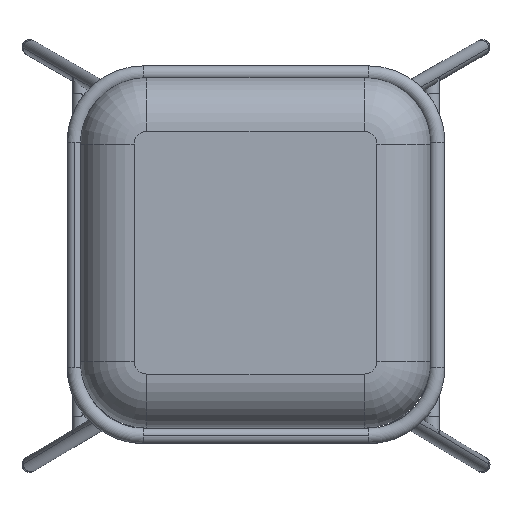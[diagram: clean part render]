
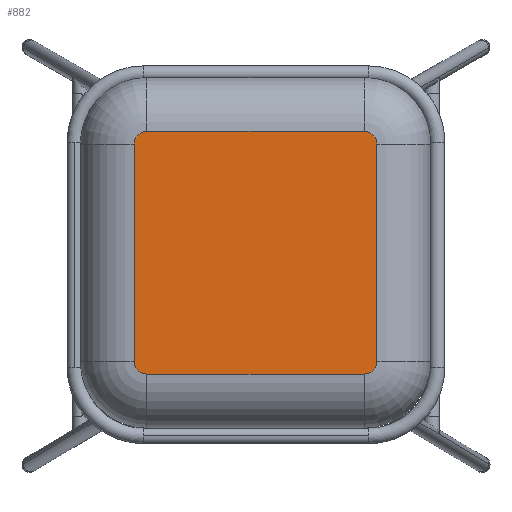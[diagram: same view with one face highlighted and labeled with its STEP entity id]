
A CAD part, top view. The second image highlights one B-rep face of the part: STEP entity #882.
In plain terms, the highlighted planar face has unit normal (0, 0, 1) as drawn and (0, 1, 0) by its records, which use the part's own axes.
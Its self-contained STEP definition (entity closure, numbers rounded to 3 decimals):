
#14 = CARTESIAN_POINT ( 'NONE',  ( 113.643, 429.646, 126. ) ) ;
#24 = VERTEX_POINT ( 'NONE', #14 ) ;
#27 = CARTESIAN_POINT ( 'NONE',  ( -108.357, 429.646, 113. ) ) ;
#111 = CIRCLE ( 'NONE', #957, 13. ) ;
#112 = EDGE_CURVE ( 'NONE', #4476, #6346, #2695, .T. ) ;
#253 = PLANE ( 'NONE',  #1648 ) ;
#264 = DIRECTION ( 'NONE',  ( 0., 1., 0. ) ) ;
#504 = VERTEX_POINT ( 'NONE', #3924 ) ;
#512 = ORIENTED_EDGE ( 'NONE', *, *, #4162, .T. ) ;
#702 = CARTESIAN_POINT ( 'NONE',  ( -108.357, 429.646, 126. ) ) ;
#707 = CARTESIAN_POINT ( 'NONE',  ( 113.643, 429.646, -109. ) ) ;
#806 = DIRECTION ( 'NONE',  ( 0., 0., 1. ) ) ;
#823 = DIRECTION ( 'NONE',  ( 1., 0., 0. ) ) ;
#882 = ADVANCED_FACE ( 'NONE', ( #4292 ), #253, .T. ) ;
#898 = DIRECTION ( 'NONE',  ( 0., 0., 1. ) ) ;
#957 = AXIS2_PLACEMENT_3D ( 'NONE', #2051, #4077, #898 ) ;
#1263 = DIRECTION ( 'NONE',  ( 0., 0., 1. ) ) ;
#1360 = CARTESIAN_POINT ( 'NONE',  ( 113.643, 429.646, 113. ) ) ;
#1379 = ORIENTED_EDGE ( 'NONE', *, *, #1949, .T. ) ;
#1528 = CIRCLE ( 'NONE', #3874, 13. ) ;
#1648 = AXIS2_PLACEMENT_3D ( 'NONE', #4760, #6362, #806 ) ;
#1657 = DIRECTION ( 'NONE',  ( -1., 0., 0. ) ) ;
#1736 = CARTESIAN_POINT ( 'NONE',  ( -121.357, 429.646, 113. ) ) ;
#1813 = CIRCLE ( 'NONE', #4242, 13. ) ;
#1877 = CARTESIAN_POINT ( 'NONE',  ( 113.643, 429.646, 126. ) ) ;
#1949 = EDGE_CURVE ( 'NONE', #504, #2546, #3788, .T. ) ;
#2051 = CARTESIAN_POINT ( 'NONE',  ( -108.357, 429.646, -109. ) ) ;
#2091 = CARTESIAN_POINT ( 'NONE',  ( 126.643, 429.646, -109. ) ) ;
#2281 = CARTESIAN_POINT ( 'NONE',  ( -121.357, 429.646, 113. ) ) ;
#2390 = EDGE_CURVE ( 'NONE', #24, #3492, #1813, .T. ) ;
#2546 = VERTEX_POINT ( 'NONE', #6266 ) ;
#2552 = LINE ( 'NONE', #2091, #4803 ) ;
#2695 = CIRCLE ( 'NONE', #6410, 13. ) ;
#2767 = CARTESIAN_POINT ( 'NONE',  ( 126.643, 429.646, 113. ) ) ;
#2953 = ORIENTED_EDGE ( 'NONE', *, *, #112, .T. ) ;
#3000 = EDGE_CURVE ( 'NONE', #3804, #504, #1528, .T. ) ;
#3458 = ORIENTED_EDGE ( 'NONE', *, *, #5983, .T. ) ;
#3492 = VERTEX_POINT ( 'NONE', #2767 ) ;
#3593 = ORIENTED_EDGE ( 'NONE', *, *, #5297, .T. ) ;
#3745 = DIRECTION ( 'NONE',  ( 0., 0., 1. ) ) ;
#3788 = LINE ( 'NONE', #5686, #5624 ) ;
#3796 = DIRECTION ( 'NONE',  ( 0., 1., 0. ) ) ;
#3804 = VERTEX_POINT ( 'NONE', #4094 ) ;
#3843 = VECTOR ( 'NONE', #823, 1000. ) ;
#3874 = AXIS2_PLACEMENT_3D ( 'NONE', #707, #3796, #4877 ) ;
#3924 = CARTESIAN_POINT ( 'NONE',  ( 113.643, 429.646, -122. ) ) ;
#4030 = EDGE_CURVE ( 'NONE', #3492, #3804, #2552, .T. ) ;
#4077 = DIRECTION ( 'NONE',  ( 0., 1., 0. ) ) ;
#4094 = CARTESIAN_POINT ( 'NONE',  ( 126.643, 429.646, -109. ) ) ;
#4162 = EDGE_CURVE ( 'NONE', #2546, #4542, #111, .T. ) ;
#4242 = AXIS2_PLACEMENT_3D ( 'NONE', #1360, #264, #1263 ) ;
#4285 = ORIENTED_EDGE ( 'NONE', *, *, #2390, .T. ) ;
#4292 = FACE_OUTER_BOUND ( 'NONE', #5857, .T. ) ;
#4429 = LINE ( 'NONE', #1877, #3843 ) ;
#4476 = VERTEX_POINT ( 'NONE', #2281 ) ;
#4531 = CARTESIAN_POINT ( 'NONE',  ( -121.357, 429.646, -109. ) ) ;
#4542 = VERTEX_POINT ( 'NONE', #4531 ) ;
#4760 = CARTESIAN_POINT ( 'NONE',  ( -108.357, 429.646, -109. ) ) ;
#4803 = VECTOR ( 'NONE', #6549, 1000. ) ;
#4852 = LINE ( 'NONE', #1736, #6084 ) ;
#4877 = DIRECTION ( 'NONE',  ( 0., 0., 1. ) ) ;
#5150 = DIRECTION ( 'NONE',  ( 0., 1., 0. ) ) ;
#5297 = EDGE_CURVE ( 'NONE', #6346, #24, #4429, .T. ) ;
#5624 = VECTOR ( 'NONE', #1657, 1000. ) ;
#5686 = CARTESIAN_POINT ( 'NONE',  ( -108.357, 429.646, -122. ) ) ;
#5825 = DIRECTION ( 'NONE',  ( 0., 0., 1. ) ) ;
#5857 = EDGE_LOOP ( 'NONE', ( #3458, #2953, #3593, #4285, #6190, #6519, #1379, #512 ) ) ;
#5983 = EDGE_CURVE ( 'NONE', #4542, #4476, #4852, .T. ) ;
#6084 = VECTOR ( 'NONE', #5825, 1000. ) ;
#6190 = ORIENTED_EDGE ( 'NONE', *, *, #4030, .T. ) ;
#6266 = CARTESIAN_POINT ( 'NONE',  ( -108.357, 429.646, -122. ) ) ;
#6346 = VERTEX_POINT ( 'NONE', #702 ) ;
#6362 = DIRECTION ( 'NONE',  ( 0., 1., 0. ) ) ;
#6410 = AXIS2_PLACEMENT_3D ( 'NONE', #27, #5150, #3745 ) ;
#6519 = ORIENTED_EDGE ( 'NONE', *, *, #3000, .T. ) ;
#6549 = DIRECTION ( 'NONE',  ( 0., 0., -1. ) ) ;
